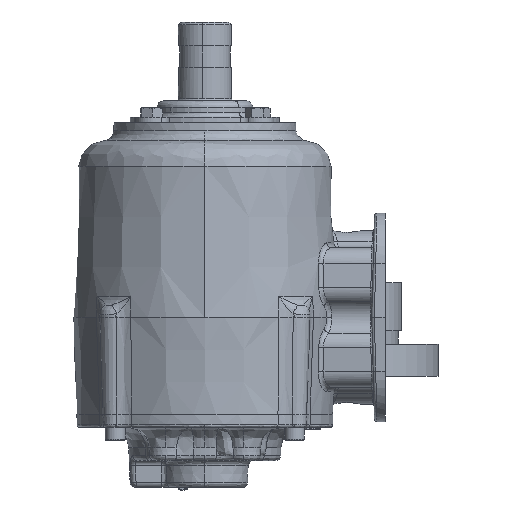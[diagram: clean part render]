
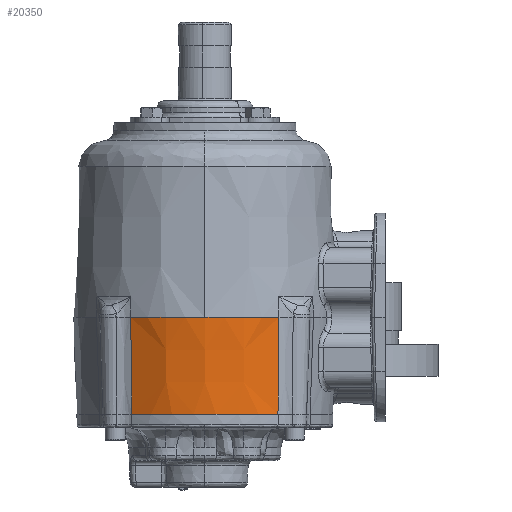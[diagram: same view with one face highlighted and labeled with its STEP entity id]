
A CAD part, left-side view. The second image highlights one B-rep face of the part: STEP entity #20350.
In plain terms, the highlighted conical face has half-angle 2 degrees and reference radius 78.232 mm.
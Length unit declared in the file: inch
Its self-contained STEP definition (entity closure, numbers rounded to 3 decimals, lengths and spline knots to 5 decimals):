
#20350 = ADVANCED_FACE ( 'NONE', ( #49736 ), #36215, .T. ) ;
#35507 = VERTEX_POINT ( 'NONE', #134532 ) ;
#35544 = VERTEX_POINT ( 'NONE', #134643 ) ;
#35570 = VERTEX_POINT ( 'NONE', #134721 ) ;
#36215 = CONICAL_SURFACE ( 'NONE', #36262, 3.08, 0.035 ) ;
#36262 = AXIS2_PLACEMENT_3D ( 'NONE', #49734, #49738, #49730 ) ;
#49730 = DIRECTION ( 'NONE',  ( 1., 0., 0. ) ) ;
#49734 = CARTESIAN_POINT ( 'NONE',  ( -0.32707, 0.03727, -0.86956 ) ) ;
#49736 = FACE_OUTER_BOUND ( 'NONE', #183480, .T. ) ;
#49738 = DIRECTION ( 'NONE',  ( 0., 0., 1. ) ) ;
#61284 = B_SPLINE_CURVE_WITH_KNOTS ( 'NONE', 3,
 ( #122606, #122604, #122666, #122668 ),
 .UNSPECIFIED., .F., .F.,
 ( 4, 4 ),
 ( 0., 1. ),
 .UNSPECIFIED. ) ;
#61331 = B_SPLINE_CURVE_WITH_KNOTS ( 'NONE', 3,
 ( #118118, #118113, #121781, #121783 ),
 .UNSPECIFIED., .F., .F.,
 ( 4, 4 ),
 ( 0., 1. ),
 .UNSPECIFIED. ) ;
#76406 = EDGE_CURVE ( 'NONE', #119776, #119773, #103836, .T. ) ;
#94353 = CARTESIAN_POINT ( 'NONE',  ( -3.40707, 0.03727, -0.86956 ) ) ;
#94355 = CARTESIAN_POINT ( 'NONE',  ( -2.87096, 1.77365, -0.86956 ) ) ;
#95023 = CARTESIAN_POINT ( 'NONE',  ( -0.32707, 0.03727, -0.86956 ) ) ;
#95025 = DIRECTION ( 'NONE',  ( 0., 0., 1. ) ) ;
#95027 = DIRECTION ( 'NONE',  ( 1., 0., 0. ) ) ;
#100473 = CARTESIAN_POINT ( 'NONE',  ( -0.32707, 0.03727, -3.13406 ) ) ;
#100474 = DIRECTION ( 'NONE',  ( 0., 0., -1. ) ) ;
#100475 = DIRECTION ( 'NONE',  ( 1., 0., 0. ) ) ;
#103836 = CIRCLE ( 'NONE', #103839, 3.08 ) ;
#103839 = AXIS2_PLACEMENT_3D ( 'NONE', #95023, #95025, #95027 ) ;
#105220 = CIRCLE ( 'NONE', #105223, 3.00092 ) ;
#105223 = AXIS2_PLACEMENT_3D ( 'NONE', #100473, #100474, #100475 ) ;
#118113 = CARTESIAN_POINT ( 'NONE',  ( -2.84382, 1.76533, -1.64577 ) ) ;
#118118 = CARTESIAN_POINT ( 'NONE',  ( -2.87096, 1.77365, -0.86956 ) ) ;
#119773 = VERTEX_POINT ( 'NONE', #94353 ) ;
#119776 = VERTEX_POINT ( 'NONE', #94355 ) ;
#120815 = CIRCLE ( 'NONE', #120817, 3.08 ) ;
#120817 = AXIS2_PLACEMENT_3D ( 'NONE', #122960, #122962, #122964 ) ;
#121781 = CARTESIAN_POINT ( 'NONE',  ( -2.81732, 1.75734, -2.4006 ) ) ;
#121783 = CARTESIAN_POINT ( 'NONE',  ( -2.79144, 1.7497, -3.13406 ) ) ;
#122604 = CARTESIAN_POINT ( 'NONE',  ( -2.81732, -1.6828, -2.4006 ) ) ;
#122606 = CARTESIAN_POINT ( 'NONE',  ( -2.79144, -1.67515, -3.13406 ) ) ;
#122666 = CARTESIAN_POINT ( 'NONE',  ( -2.84382, -1.69078, -1.64577 ) ) ;
#122668 = CARTESIAN_POINT ( 'NONE',  ( -2.87096, -1.6991, -0.86956 ) ) ;
#122960 = CARTESIAN_POINT ( 'NONE',  ( -0.32707, 0.03727, -0.86956 ) ) ;
#122962 = DIRECTION ( 'NONE',  ( 0., 0., 1. ) ) ;
#122964 = DIRECTION ( 'NONE',  ( 1., 0., 0. ) ) ;
#134204 = ORIENTED_EDGE ( 'NONE', *, *, #76406, .F. ) ;
#134206 = ORIENTED_EDGE ( 'NONE', *, *, #160795, .T. ) ;
#134209 = ORIENTED_EDGE ( 'NONE', *, *, #160358, .F. ) ;
#134212 = ORIENTED_EDGE ( 'NONE', *, *, #160831, .T. ) ;
#134215 = ORIENTED_EDGE ( 'NONE', *, *, #160854, .F. ) ;
#134532 = CARTESIAN_POINT ( 'NONE',  ( -2.87096, -1.6991, -0.86956 ) ) ;
#134643 = CARTESIAN_POINT ( 'NONE',  ( -2.79144, -1.67515, -3.13406 ) ) ;
#134721 = CARTESIAN_POINT ( 'NONE',  ( -2.79144, 1.7497, -3.13406 ) ) ;
#160358 = EDGE_CURVE ( 'NONE', #35544, #35570, #105220, .T. ) ;
#160795 = EDGE_CURVE ( 'NONE', #119776, #35570, #61331, .T. ) ;
#160831 = EDGE_CURVE ( 'NONE', #35544, #35507, #61284, .T. ) ;
#160854 = EDGE_CURVE ( 'NONE', #119773, #35507, #120815, .T. ) ;
#183480 = EDGE_LOOP ( 'NONE', ( #134204, #134206, #134209, #134212, #134215 ) ) ;
